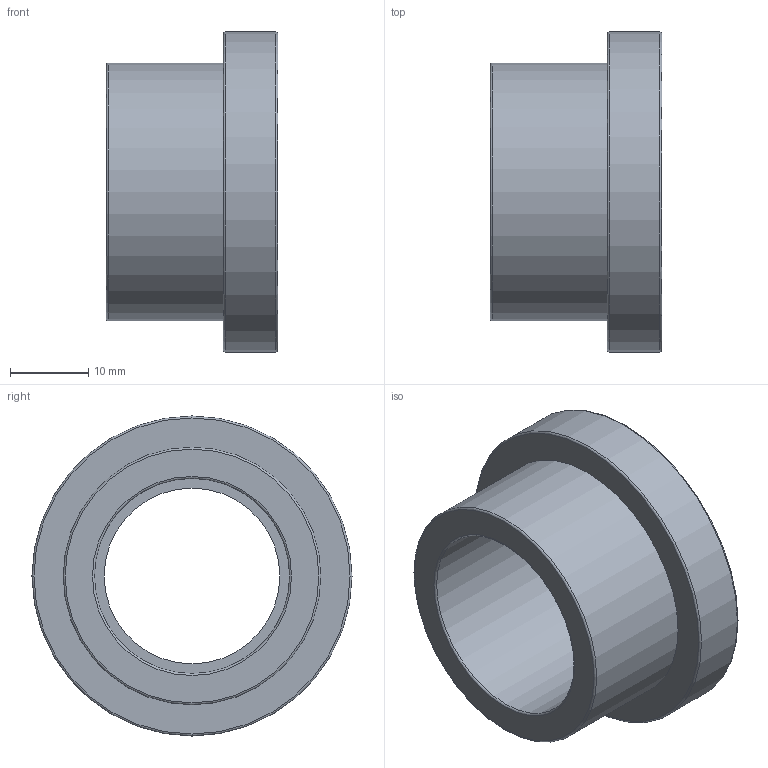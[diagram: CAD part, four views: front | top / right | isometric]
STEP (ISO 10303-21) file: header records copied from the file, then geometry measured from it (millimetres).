
FILE_DESCRIPTION(/* description */ ('PLASSON FLANGE FLAT AD.-CEM 25'),/* implementation_level */ '2;1');
FILE_NAME(/* name */ 'C:\Dropbox\KIMPROJECTS-Inventor\99-16-3568-Processing\PVC Catalog 2017\26_09_18\055100\055100025.ipt.stp',/* time_stamp */ '2018-09-27T11:50:40+03:00',/* author */ ('KIM'),/* organization */ (''),/* preprocessor_version */ 'ST-DEVELOPER v15.6',/* originating_system */ 'Autodesk Inventor 2015',/* authorisation */ '');
FILE_SCHEMA (('AUTOMOTIVE_DESIGN { 1 0 10303 214 3 1 1 }'));
Length unit declared in the file: millimetre
Products named in the file (1): 055100025
Bounding box: 22 x 41 x 41 mm (x, y, z)
Volume: 11545 mm3; surface area: 5951.5 mm2
Topology: 1 solids, 1 shells, 13 faces, 22 edges, 13 vertices
Faces by surface type: torus 5, cylinder 4, plane 4
Full cylindrical faces by diameter (mm): 22.5 x1, 25 x1, 33 x1, 41 x1
Entity records: 292 total; most frequent: DIRECTION 54, CARTESIAN_POINT 40, AXIS2_PLACEMENT_3D 27, EDGE_LOOP 26, ORIENTED_EDGE 26, FACE_BOUND 13, FACE_OUTER_BOUND 13, CIRCLE 13
